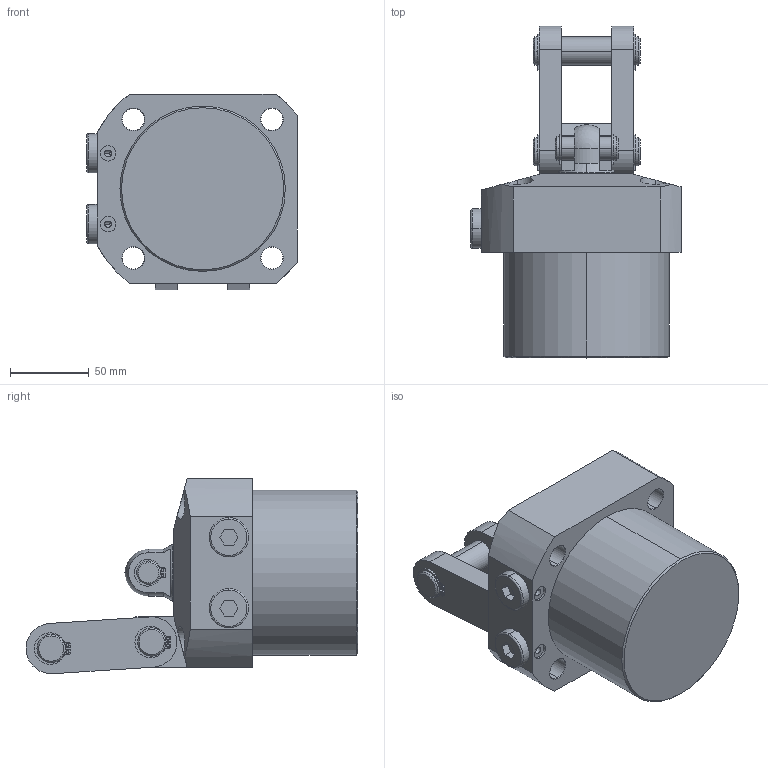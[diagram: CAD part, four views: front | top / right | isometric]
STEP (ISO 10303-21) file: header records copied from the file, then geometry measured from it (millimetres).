
FILE_DESCRIPTION (( 'STEP AP203' ), '1' );
FILE_NAME ('4171 821 L.STEP', '2017-11-29T06:55:57', ( '' ), ( '' ), 'SwSTEP 2.0', 'SolidWorks 2015', '' );
FILE_SCHEMA (( 'CONFIG_CONTROL_DESIGN' ));
Length unit declared in the file: millimetre
Products named in the file (8): (normal) external_is_IS 3075 NE- 18; BODY_4171 821 L; PR; PIN 1; 4171 821 L; PIN 2; LINK; (normal) external_is_IS 3075 NE- 15
Assembly tree (13 placements, depth 2):
  4171 821 L
    BODY_4171 821 L
    PR
    PIN 1
    PIN 2  x2
    LINK  x2
    (normal) external_is_IS 3075 NE- 15  x2
    (normal) external_is_IS 3075 NE- 18  x4
Bounding box: 133.5 x 210.83 x 124.13 mm (x, y, z)
Volume: 1401171.5 mm3; surface area: 131952 mm2
Topology: 13 solids, 13 shells, 344 faces, 848 edges, 547 vertices
Faces by surface type: cylinder 173, plane 125, cone 40, torus 4, sphere 2
Entity records: 7774 total; most frequent: CARTESIAN_POINT 1347, DIRECTION 1212, ORIENTED_EDGE 1078, EDGE_CURVE 539, AXIS2_PLACEMENT_3D 471, VERTEX_POINT 346, LINE 270, VECTOR 270
